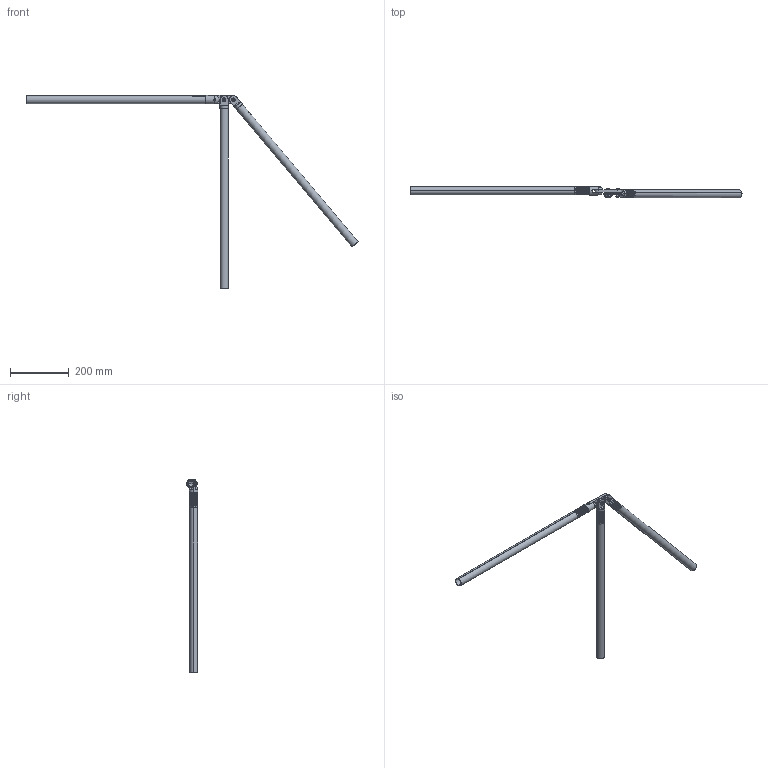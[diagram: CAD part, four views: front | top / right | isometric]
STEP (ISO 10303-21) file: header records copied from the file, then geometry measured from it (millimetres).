
FILE_DESCRIPTION (( 'STEP AP214' ), '1' );
FILE_NAME ('Triple Link Connector to Female Clevis Connector and Two Male Clevis Connectors.STEP', '2013-08-19T16:18:38', ( 'ydmin' ), ( 'Microsoft' ), 'SwSTEP 2.0', 'SolidWorks 2013', '' );
FILE_SCHEMA (( 'AUTOMOTIVE_DESIGN' ));
Length unit declared in the file: inch
Products named in the file (7): 95479A111_95479A111; 91255A542_91255A542; DRP-002-0510-00_FEMALE YOKE TUBE INSERT; DRP-002-0534-00; DRP-002-0509-00_MALE YOKE TUBE INSERT; Triple Link Connector to Female Clevis Connector and Two Male Clevis Connectors; 6.000 Inch Tube
Assembly tree (12 placements, depth 2):
  Triple Link Connector to Female Clevis Connector and Two Male Clevis Connectors
    DRP-002-0509-00_MALE YOKE TUBE INSERT  x2
    DRP-002-0534-00
    DRP-002-0510-00_FEMALE YOKE TUBE INSERT
    91255A542_91255A542  x3
    95479A111_95479A111  x2
    6.000 Inch Tube  x3
Bounding box: 1126.17 x 39.8 x 654.77 mm (x, y, z)
Volume: 246003.8 mm3; surface area: 354720.5 mm2
Topology: 12 solids, 12 shells, 1401 faces, 3498 edges, 2123 vertices
Faces by surface type: cylinder 625, plane 395, cone 345, torus 24, sphere 12
Entity records: 25268 total; most frequent: CARTESIAN_POINT 6849, DIRECTION 3906, ORIENTED_EDGE 3792, EDGE_CURVE 1896, AXIS2_PLACEMENT_3D 1423, VERTEX_POINT 1190, VECTOR 1060, LINE 1060
